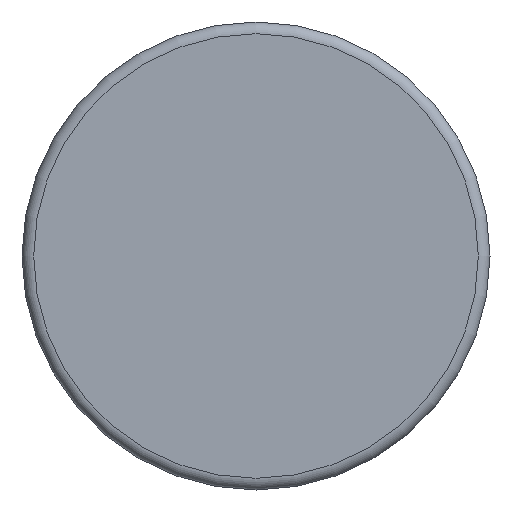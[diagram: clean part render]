
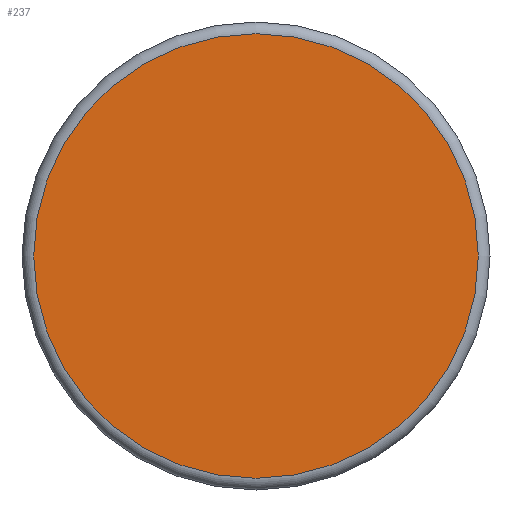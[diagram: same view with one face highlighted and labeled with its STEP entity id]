
A CAD part, front view. The second image highlights one B-rep face of the part: STEP entity #237.
In plain terms, the highlighted planar face has unit normal (0, -1, 0).
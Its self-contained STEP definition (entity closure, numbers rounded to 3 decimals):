
#237 = ADVANCED_FACE( '', ( #454 ), #455, .F. );
#454 = FACE_OUTER_BOUND( '', #654, .T. );
#455 = PLANE( '', #655 );
#654 = EDGE_LOOP( '', ( #1050 ) );
#655 = AXIS2_PLACEMENT_3D( '', #1051, #1052, #1053 );
#1050 = ORIENTED_EDGE( '', *, *, #1256, .T. );
#1051 = CARTESIAN_POINT( '', ( 19., 0., 0. ) );
#1052 = DIRECTION( '', ( 0., 1., 0. ) );
#1053 = DIRECTION( '', ( 0., 0., 1. ) );
#1256 = EDGE_CURVE( '', #1476, #1476, #1477, .T. );
#1476 = VERTEX_POINT( '', #1980 );
#1477 = CIRCLE( '', #1981, 19. );
#1980 = CARTESIAN_POINT( '', ( 0., 0., -19. ) );
#1981 = AXIS2_PLACEMENT_3D( '', #2119, #2120, #2121 );
#2119 = CARTESIAN_POINT( '', ( 0., 0., 0. ) );
#2120 = DIRECTION( '', ( 0., -1., 0. ) );
#2121 = DIRECTION( '', ( 0., 0., -1. ) );
